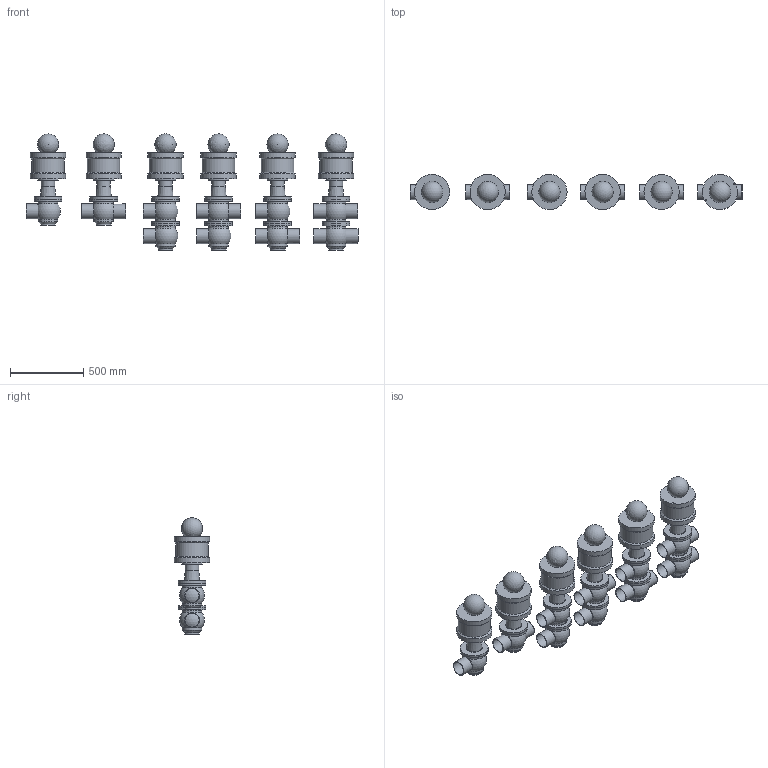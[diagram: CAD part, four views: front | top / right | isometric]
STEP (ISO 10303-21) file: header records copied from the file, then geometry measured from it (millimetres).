
FILE_DESCRIPTION(/* description */ (''),/* implementation_level */ '2;1');
FILE_NAME(/* name */ 'C:\Users\marz-m\Desktop\PDF\BBZQ 3D STEP\BBZQ-DN100-CIL.207.stp',/* time_stamp */ '2018-04-13T15:29:09+02:00',/* author */ ('marz-m'),/* organization */ (''),/* preprocessor_version */ 'ST-DEVELOPER v17',/* originating_system */ 'Autodesk Inventor 2018',/* authorisation */ '');
FILE_SCHEMA (('AUTOMOTIVE_DESIGN { 1 0 10303 214 3 1 1 }'));
Length unit declared in the file: millimetre
Products named in the file (8): BBZQ-DN100-CIL.207; assemblaggio dn100 per cil 207-360; CIL207-BBZQ; SAGOMA-GIOTTO-; COR-INF-L-BBZQ-DN100X3-SALD; CORPO-SUP-INF-BBZQ-L-DN1016X3-SALD; CORPO-SUP-BBZQ-T-DN1016X3-SALD; COR-INF-T-BBZQ-DN100X3-SALD
Assembly tree (28 placements, depth 2):
  BBZQ-DN100-CIL.207
    assemblaggio dn100 per cil 207-360  x6
    COR-INF-L-BBZQ-DN100X3-SALD  x3
    COR-INF-T-BBZQ-DN100X3-SALD  x3
    CORPO-SUP-INF-BBZQ-L-DN1016X3-SALD  x2
    CORPO-SUP-BBZQ-T-DN1016X3-SALD  x2
    CIL207-BBZQ  x6
    SAGOMA-GIOTTO-  x6
Bounding box: 2260.92 x 240 x 790.97 mm (x, y, z)
Volume: 91553357.6 mm3; surface area: 4888463.8 mm2
Topology: 28 solids, 28 shells, 368 faces, 940 edges, 692 vertices
Faces by surface type: cylinder 142, plane 115, torus 44, cone 36, sphere 31
Full cylindrical faces by diameter (mm): 5.657 x6, 8.944 x6, 68 x6, 70 x6, 77 x6, 92 x6, 95.6 x21, 101.6 x21, 133 x20, 141 x6, 189 x20, 221 x6, 240 x12
Entity records: 4212 total; most frequent: CARTESIAN_POINT 1005, DIRECTION 732, ORIENTED_EDGE 532, AXIS2_PLACEMENT_3D 342, EDGE_CURVE 266, CIRCLE 202, VERTEX_POINT 199, EDGE_LOOP 129
